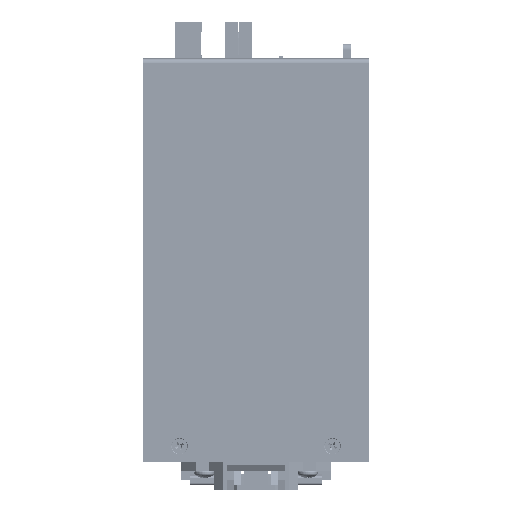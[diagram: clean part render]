
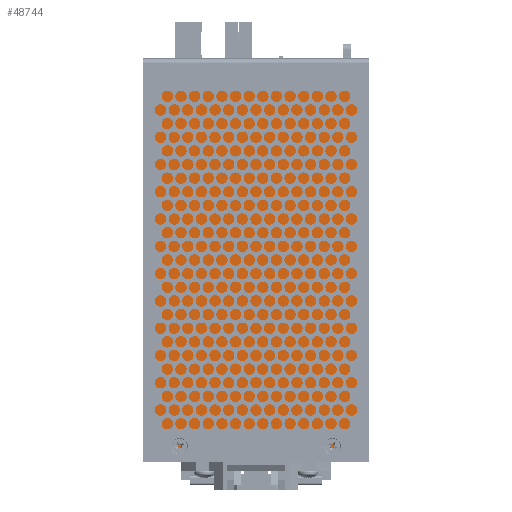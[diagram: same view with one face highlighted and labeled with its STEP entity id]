
A CAD part, front view. The second image highlights one B-rep face of the part: STEP entity #48744.
In plain terms, the highlighted planar face has unit normal (0, -1, 0) as drawn and (0, 0, 1) by its records, which use the part's own axes.
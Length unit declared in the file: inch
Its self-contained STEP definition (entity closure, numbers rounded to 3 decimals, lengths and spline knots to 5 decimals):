
#17781 = ORIENTED_EDGE ( 'NONE', *, *, #134337, .T. ) ;
#20799 = AXIS2_PLACEMENT_3D ( 'NONE', #335020, #257954, #373556 ) ;
#33441 = LINE ( 'NONE', #431278, #110311 ) ;
#45392 = LINE ( 'NONE', #298567, #387128 ) ;
#47848 = AXIS2_PLACEMENT_3D ( 'NONE', #355852, #421283, #281171 ) ;
#48744 = ADVANCED_FACE ( 'NONE', ( #457297 ), #459655, .T. ) ;
#49501 = VERTEX_POINT ( 'NONE', #160074 ) ;
#51071 = EDGE_CURVE ( 'NONE', #115266, #49501, #291334, .T. ) ;
#66578 = CARTESIAN_POINT ( 'NONE',  ( -2.9934, 5.5019, 0. ) ) ;
#81464 = DIRECTION ( 'NONE',  ( 1., 0., 0. ) ) ;
#85735 = CARTESIAN_POINT ( 'NONE',  ( -0.068, 5.5019, 0. ) ) ;
#91061 = EDGE_CURVE ( 'NONE', #288663, #355666, #33441, .T. ) ;
#101064 = ORIENTED_EDGE ( 'NONE', *, *, #165068, .T. ) ;
#110311 = VECTOR ( 'NONE', #252688, 39.37008 ) ;
#115266 = VERTEX_POINT ( 'NONE', #243100 ) ;
#116153 = AXIS2_PLACEMENT_3D ( 'NONE', #202090, #322554, #173040 ) ;
#127847 = ORIENTED_EDGE ( 'NONE', *, *, #395706, .T. ) ;
#134337 = EDGE_CURVE ( 'NONE', #196669, #254403, #266640, .T. ) ;
#146558 = DIRECTION ( 'NONE',  ( 0., -1., 0. ) ) ;
#157175 = CARTESIAN_POINT ( 'NONE',  ( -0.036, 5.4699, 0. ) ) ;
#160074 = CARTESIAN_POINT ( 'NONE',  ( -3.0254, 0.0719, 0. ) ) ;
#165068 = EDGE_CURVE ( 'NONE', #355666, #196669, #301049, .T. ) ;
#173040 = DIRECTION ( 'NONE',  ( 1., 0., 0. ) ) ;
#193641 = ORIENTED_EDGE ( 'NONE', *, *, #51071, .T. ) ;
#196669 = VERTEX_POINT ( 'NONE', #325054 ) ;
#202090 = CARTESIAN_POINT ( 'NONE',  ( -0.068, 5.4699, 0. ) ) ;
#214070 = CIRCLE ( 'NONE', #20799, 0.032 ) ;
#218800 = CARTESIAN_POINT ( 'NONE',  ( -3.0254, 5.4699, 0. ) ) ;
#243100 = CARTESIAN_POINT ( 'NONE',  ( -3.0254, 5.4699, 0. ) ) ;
#252688 = DIRECTION ( 'NONE',  ( 0., 1., 0. ) ) ;
#254403 = VERTEX_POINT ( 'NONE', #66578 ) ;
#257954 = DIRECTION ( 'NONE',  ( 0., 0., 1. ) ) ;
#266640 = LINE ( 'NONE', #85735, #368555 ) ;
#281171 = DIRECTION ( 'NONE',  ( 1., 0., 0. ) ) ;
#285295 = ORIENTED_EDGE ( 'NONE', *, *, #91061, .T. ) ;
#288663 = VERTEX_POINT ( 'NONE', #471882 ) ;
#291334 = LINE ( 'NONE', #218800, #357558 ) ;
#298567 = CARTESIAN_POINT ( 'NONE',  ( -3.0254, 0.0719, 0. ) ) ;
#301049 = CIRCLE ( 'NONE', #116153, 0.032 ) ;
#322554 = DIRECTION ( 'NONE',  ( 0., 0., 1. ) ) ;
#325054 = CARTESIAN_POINT ( 'NONE',  ( -0.068, 5.5019, 0. ) ) ;
#335020 = CARTESIAN_POINT ( 'NONE',  ( -2.9934, 5.4699, 0. ) ) ;
#355666 = VERTEX_POINT ( 'NONE', #157175 ) ;
#355852 = CARTESIAN_POINT ( 'NONE',  ( -0.068, 5.4699, 0. ) ) ;
#357558 = VECTOR ( 'NONE', #146558, 39.37008 ) ;
#368555 = VECTOR ( 'NONE', #449914, 39.37008 ) ;
#373556 = DIRECTION ( 'NONE',  ( 1., 0., 0. ) ) ;
#387128 = VECTOR ( 'NONE', #81464, 39.37008 ) ;
#395706 = EDGE_CURVE ( 'NONE', #49501, #288663, #45392, .T. ) ;
#421283 = DIRECTION ( 'NONE',  ( 0., 0., 1. ) ) ;
#431278 = CARTESIAN_POINT ( 'NONE',  ( -0.036, 0.0719, 0. ) ) ;
#435197 = ORIENTED_EDGE ( 'NONE', *, *, #444248, .T. ) ;
#436329 = EDGE_LOOP ( 'NONE', ( #127847, #285295, #101064, #17781, #435197, #193641 ) ) ;
#444248 = EDGE_CURVE ( 'NONE', #254403, #115266, #214070, .T. ) ;
#449914 = DIRECTION ( 'NONE',  ( -1., 0., 0. ) ) ;
#457297 = FACE_OUTER_BOUND ( 'NONE', #436329, .T. ) ;
#459655 = PLANE ( 'NONE',  #47848 ) ;
#471882 = CARTESIAN_POINT ( 'NONE',  ( -0.036, 0.0719, 0. ) ) ;
